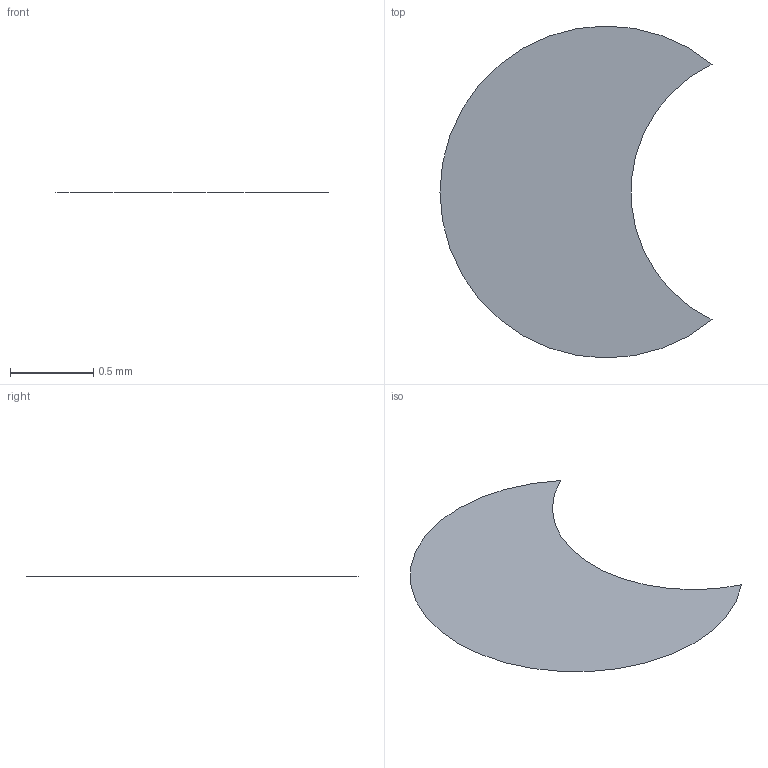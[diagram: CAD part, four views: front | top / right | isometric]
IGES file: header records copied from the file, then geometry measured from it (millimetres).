
Global section: file name: Filename.iges; native system: Open CASCADE 6.9; preprocessor: Open CASCADE IGES processor 6.9; date: 20171127.172330; units: millimetre
Bounding box: 1.64 x 2 x 0 mm (x, y, z)
Surface area: 2.2 mm2 (no closed solid volume)
Topology: 0 solids, 0 shells, 1 faces, 2 edges, 2 vertices
Faces by surface type: plane 1
